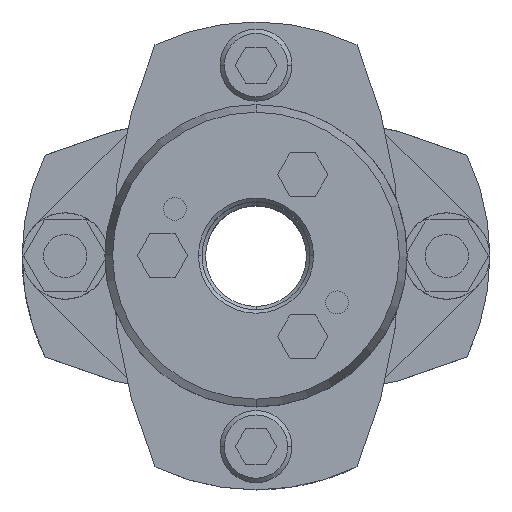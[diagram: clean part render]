
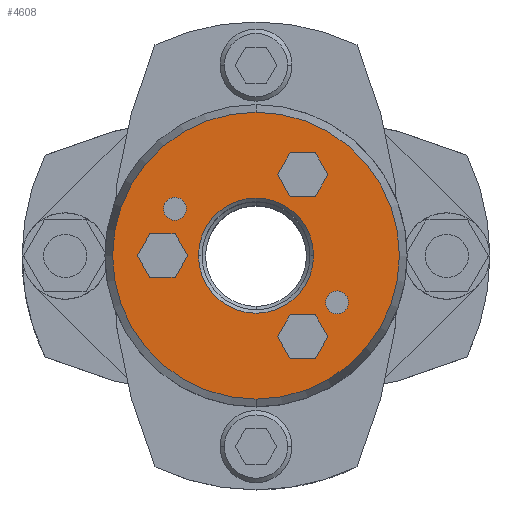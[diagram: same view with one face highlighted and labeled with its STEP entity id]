
A CAD part, top view. The second image highlights one B-rep face of the part: STEP entity #4608.
In plain terms, the highlighted planar face has unit normal (0, 0, 1).
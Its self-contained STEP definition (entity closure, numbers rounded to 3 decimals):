
#1004=CARTESIAN_POINT('',(0.,-19.928,30.75));
#1005=VERTEX_POINT('',#1004);
#1012=CARTESIAN_POINT('',(0.0,19.928,30.75));
#1013=VERTEX_POINT('',#1012);
#1014=CARTESIAN_POINT('',(0.0,0.,30.75));
#1015=DIRECTION('',(0.0,0.0,-1.0));
#1016=DIRECTION('',(0.0,-1.0,0.0));
#1017=AXIS2_PLACEMENT_3D('',#1014,#1015,#1016);
#1018=CIRCLE('',#1017,19.928);
#1019=EDGE_CURVE('',#1005,#1013,#1018,.T.);
#1114=CARTESIAN_POINT('',(-8.,0.,30.75));
#1115=VERTEX_POINT('',#1114);
#1131=CARTESIAN_POINT('',(8.,0.,30.75));
#1132=VERTEX_POINT('',#1131);
#1139=CARTESIAN_POINT('',(0.,0.,30.75));
#1140=DIRECTION('',(0.0,0.0,1.0));
#1141=DIRECTION('',(-1.0,0.0,0.0));
#1142=AXIS2_PLACEMENT_3D('',#1139,#1140,#1141);
#1143=CIRCLE('',#1142,8.0);
#1144=EDGE_CURVE('',#1132,#1115,#1143,.T.);
#1262=CARTESIAN_POINT('',(-12.858,6.5,30.75));
#1263=VERTEX_POINT('',#1262);
#1279=CARTESIAN_POINT('',(-9.658,6.5,30.75));
#1280=VERTEX_POINT('',#1279);
#1287=CARTESIAN_POINT('',(-11.258,6.5,30.75));
#1288=DIRECTION('',(0.0,0.0,-1.0));
#1289=DIRECTION('',(-1.0,0.0,0.0));
#1290=AXIS2_PLACEMENT_3D('',#1287,#1288,#1289);
#1291=CIRCLE('',#1290,1.6);
#1292=EDGE_CURVE('',#1263,#1280,#1291,.T.);
#1304=CARTESIAN_POINT('',(9.658,-6.5,30.75));
#1305=VERTEX_POINT('',#1304);
#1321=CARTESIAN_POINT('',(12.858,-6.5,30.75));
#1322=VERTEX_POINT('',#1321);
#1329=CARTESIAN_POINT('',(11.258,-6.5,30.75));
#1330=DIRECTION('',(0.0,0.0,-1.0));
#1331=DIRECTION('',(-1.0,0.0,0.0));
#1332=AXIS2_PLACEMENT_3D('',#1329,#1330,#1331);
#1333=CIRCLE('',#1332,1.6);
#1334=EDGE_CURVE('',#1305,#1322,#1333,.T.);
#3811=CARTESIAN_POINT('',(11.258,-6.5,30.75));
#3812=DIRECTION('',(0.0,0.0,-1.0));
#3813=DIRECTION('',(-1.0,0.0,0.0));
#3814=AXIS2_PLACEMENT_3D('',#3811,#3812,#3813);
#3815=CIRCLE('',#3814,1.6);
#3816=EDGE_CURVE('',#1322,#1305,#3815,.T.);
#3845=CARTESIAN_POINT('',(-11.258,6.5,30.75));
#3846=DIRECTION('',(0.0,0.0,-1.0));
#3847=DIRECTION('',(-1.0,0.0,0.0));
#3848=AXIS2_PLACEMENT_3D('',#3845,#3846,#3847);
#3849=CIRCLE('',#3848,1.6);
#3850=EDGE_CURVE('',#1280,#1263,#3849,.T.);
#3888=CARTESIAN_POINT('',(3.,-11.258,30.75));
#3889=VERTEX_POINT('',#3888);
#3896=CARTESIAN_POINT('',(4.75,-14.289,30.75));
#3897=VERTEX_POINT('',#3896);
#3898=CARTESIAN_POINT('',(4.75,-14.289,30.75));
#3899=DIRECTION('',(-0.5,0.866,0.0));
#3900=VECTOR('',#3899,3.5);
#3901=LINE('',#3898,#3900);
#3902=EDGE_CURVE('',#3897,#3889,#3901,.T.);
#3926=CARTESIAN_POINT('',(4.75,-8.227,30.75));
#3927=VERTEX_POINT('',#3926);
#3934=CARTESIAN_POINT('',(3.,-11.258,30.75));
#3935=DIRECTION('',(0.5,0.866,0.0));
#3936=VECTOR('',#3935,3.5);
#3937=LINE('',#3934,#3936);
#3938=EDGE_CURVE('',#3889,#3927,#3937,.T.);
#3957=CARTESIAN_POINT('',(8.25,-8.227,30.75));
#3958=VERTEX_POINT('',#3957);
#3965=CARTESIAN_POINT('',(4.75,-8.227,30.75));
#3966=DIRECTION('',(1.0,0.0,0.0));
#3967=VECTOR('',#3966,3.5);
#3968=LINE('',#3965,#3967);
#3969=EDGE_CURVE('',#3927,#3958,#3968,.T.);
#3988=CARTESIAN_POINT('',(10.,-11.258,30.75));
#3989=VERTEX_POINT('',#3988);
#3996=CARTESIAN_POINT('',(8.25,-8.227,30.75));
#3997=DIRECTION('',(0.5,-0.866,0.0));
#3998=VECTOR('',#3997,3.5);
#3999=LINE('',#3996,#3998);
#4000=EDGE_CURVE('',#3958,#3989,#3999,.T.);
#4019=CARTESIAN_POINT('',(8.25,-14.289,30.75));
#4020=VERTEX_POINT('',#4019);
#4027=CARTESIAN_POINT('',(10.,-11.258,30.75));
#4028=DIRECTION('',(-0.5,-0.866,0.0));
#4029=VECTOR('',#4028,3.5);
#4030=LINE('',#4027,#4029);
#4031=EDGE_CURVE('',#3989,#4020,#4030,.T.);
#4049=CARTESIAN_POINT('',(8.25,-14.289,30.75));
#4050=DIRECTION('',(-1.0,0.0,0.0));
#4051=VECTOR('',#4050,3.5);
#4052=LINE('',#4049,#4051);
#4053=EDGE_CURVE('',#4020,#3897,#4052,.T.);
#4088=CARTESIAN_POINT('',(3.,11.258,30.75));
#4089=VERTEX_POINT('',#4088);
#4096=CARTESIAN_POINT('',(4.75,8.227,30.75));
#4097=VERTEX_POINT('',#4096);
#4098=CARTESIAN_POINT('',(4.75,8.227,30.75));
#4099=DIRECTION('',(-0.5,0.866,0.0));
#4100=VECTOR('',#4099,3.5);
#4101=LINE('',#4098,#4100);
#4102=EDGE_CURVE('',#4097,#4089,#4101,.T.);
#4126=CARTESIAN_POINT('',(4.75,14.289,30.75));
#4127=VERTEX_POINT('',#4126);
#4134=CARTESIAN_POINT('',(3.,11.258,30.75));
#4135=DIRECTION('',(0.5,0.866,0.0));
#4136=VECTOR('',#4135,3.5);
#4137=LINE('',#4134,#4136);
#4138=EDGE_CURVE('',#4089,#4127,#4137,.T.);
#4157=CARTESIAN_POINT('',(8.25,14.289,30.75));
#4158=VERTEX_POINT('',#4157);
#4165=CARTESIAN_POINT('',(4.75,14.289,30.75));
#4166=DIRECTION('',(1.0,0.0,0.0));
#4167=VECTOR('',#4166,3.5);
#4168=LINE('',#4165,#4167);
#4169=EDGE_CURVE('',#4127,#4158,#4168,.T.);
#4188=CARTESIAN_POINT('',(10.,11.258,30.75));
#4189=VERTEX_POINT('',#4188);
#4196=CARTESIAN_POINT('',(8.25,14.289,30.75));
#4197=DIRECTION('',(0.5,-0.866,0.0));
#4198=VECTOR('',#4197,3.5);
#4199=LINE('',#4196,#4198);
#4200=EDGE_CURVE('',#4158,#4189,#4199,.T.);
#4219=CARTESIAN_POINT('',(8.25,8.227,30.75));
#4220=VERTEX_POINT('',#4219);
#4227=CARTESIAN_POINT('',(10.,11.258,30.75));
#4228=DIRECTION('',(-0.5,-0.866,0.0));
#4229=VECTOR('',#4228,3.5);
#4230=LINE('',#4227,#4229);
#4231=EDGE_CURVE('',#4189,#4220,#4230,.T.);
#4249=CARTESIAN_POINT('',(8.25,8.227,30.75));
#4250=DIRECTION('',(-1.0,0.0,0.0));
#4251=VECTOR('',#4250,3.5);
#4252=LINE('',#4249,#4251);
#4253=EDGE_CURVE('',#4220,#4097,#4252,.T.);
#4288=CARTESIAN_POINT('',(-16.5,0.,30.75));
#4289=VERTEX_POINT('',#4288);
#4296=CARTESIAN_POINT('',(-14.75,-3.031,30.75));
#4297=VERTEX_POINT('',#4296);
#4298=CARTESIAN_POINT('',(-14.75,-3.031,30.75));
#4299=DIRECTION('',(-0.5,0.866,0.0));
#4300=VECTOR('',#4299,3.5);
#4301=LINE('',#4298,#4300);
#4302=EDGE_CURVE('',#4297,#4289,#4301,.T.);
#4326=CARTESIAN_POINT('',(-14.75,3.031,30.75));
#4327=VERTEX_POINT('',#4326);
#4334=CARTESIAN_POINT('',(-16.5,0.,30.75));
#4335=DIRECTION('',(0.5,0.866,0.0));
#4336=VECTOR('',#4335,3.5);
#4337=LINE('',#4334,#4336);
#4338=EDGE_CURVE('',#4289,#4327,#4337,.T.);
#4357=CARTESIAN_POINT('',(-11.25,3.031,30.75));
#4358=VERTEX_POINT('',#4357);
#4365=CARTESIAN_POINT('',(-14.75,3.031,30.75));
#4366=DIRECTION('',(1.0,0.0,0.0));
#4367=VECTOR('',#4366,3.5);
#4368=LINE('',#4365,#4367);
#4369=EDGE_CURVE('',#4327,#4358,#4368,.T.);
#4388=CARTESIAN_POINT('',(-9.5,0.,30.75));
#4389=VERTEX_POINT('',#4388);
#4396=CARTESIAN_POINT('',(-11.25,3.031,30.75));
#4397=DIRECTION('',(0.5,-0.866,0.0));
#4398=VECTOR('',#4397,3.5);
#4399=LINE('',#4396,#4398);
#4400=EDGE_CURVE('',#4358,#4389,#4399,.T.);
#4419=CARTESIAN_POINT('',(-11.25,-3.031,30.75));
#4420=VERTEX_POINT('',#4419);
#4427=CARTESIAN_POINT('',(-9.5,0.,30.75));
#4428=DIRECTION('',(-0.5,-0.866,0.0));
#4429=VECTOR('',#4428,3.5);
#4430=LINE('',#4427,#4429);
#4431=EDGE_CURVE('',#4389,#4420,#4430,.T.);
#4449=CARTESIAN_POINT('',(-11.25,-3.031,30.75));
#4450=DIRECTION('',(-1.0,0.0,0.0));
#4451=VECTOR('',#4450,3.5);
#4452=LINE('',#4449,#4451);
#4453=EDGE_CURVE('',#4420,#4297,#4452,.T.);
#4545=CARTESIAN_POINT('',(0.,0.,30.75));
#4546=DIRECTION('',(0.0,0.0,1.0));
#4547=DIRECTION('',(-1.0,0.0,0.0));
#4548=AXIS2_PLACEMENT_3D('',#4545,#4546,#4547);
#4549=CIRCLE('',#4548,8.0);
#4550=EDGE_CURVE('',#1115,#1132,#4549,.T.);
#4557=CARTESIAN_POINT('',(0.,-9.964,30.75));
#4558=DIRECTION('',(0.0,0.0,1.0));
#4559=DIRECTION('',(-1.0,0.0,0.0));
#4560=AXIS2_PLACEMENT_3D('',#4557,#4558,#4559);
#4561=PLANE('',#4560);
#4562=ORIENTED_EDGE('',*,*,#1019,.F.);
#4563=CARTESIAN_POINT('',(0.0,0.,30.75));
#4564=DIRECTION('',(0.0,0.0,-1.0));
#4565=DIRECTION('',(0.0,-1.0,0.0));
#4566=AXIS2_PLACEMENT_3D('',#4563,#4564,#4565);
#4567=CIRCLE('',#4566,19.928);
#4568=EDGE_CURVE('',#1013,#1005,#4567,.T.);
#4569=ORIENTED_EDGE('',*,*,#4568,.F.);
#4570=EDGE_LOOP('',(#4562,#4569));
#4571=FACE_OUTER_BOUND('',#4570,.T.);
#4572=ORIENTED_EDGE('',*,*,#1334,.T.);
#4573=ORIENTED_EDGE('',*,*,#3816,.T.);
#4574=EDGE_LOOP('',(#4572,#4573));
#4575=FACE_BOUND('',#4574,.T.);
#4576=ORIENTED_EDGE('',*,*,#1292,.T.);
#4577=ORIENTED_EDGE('',*,*,#3850,.T.);
#4578=EDGE_LOOP('',(#4576,#4577));
#4579=FACE_BOUND('',#4578,.T.);
#4580=ORIENTED_EDGE('',*,*,#3902,.T.);
#4581=ORIENTED_EDGE('',*,*,#3938,.T.);
#4582=ORIENTED_EDGE('',*,*,#3969,.T.);
#4583=ORIENTED_EDGE('',*,*,#4000,.T.);
#4584=ORIENTED_EDGE('',*,*,#4031,.T.);
#4585=ORIENTED_EDGE('',*,*,#4053,.T.);
#4586=EDGE_LOOP('',(#4580,#4581,#4582,#4583,#4584,#4585));
#4587=FACE_BOUND('',#4586,.T.);
#4588=ORIENTED_EDGE('',*,*,#4102,.T.);
#4589=ORIENTED_EDGE('',*,*,#4138,.T.);
#4590=ORIENTED_EDGE('',*,*,#4169,.T.);
#4591=ORIENTED_EDGE('',*,*,#4200,.T.);
#4592=ORIENTED_EDGE('',*,*,#4231,.T.);
#4593=ORIENTED_EDGE('',*,*,#4253,.T.);
#4594=EDGE_LOOP('',(#4588,#4589,#4590,#4591,#4592,#4593));
#4595=FACE_BOUND('',#4594,.T.);
#4596=ORIENTED_EDGE('',*,*,#4302,.T.);
#4597=ORIENTED_EDGE('',*,*,#4338,.T.);
#4598=ORIENTED_EDGE('',*,*,#4369,.T.);
#4599=ORIENTED_EDGE('',*,*,#4400,.T.);
#4600=ORIENTED_EDGE('',*,*,#4431,.T.);
#4601=ORIENTED_EDGE('',*,*,#4453,.T.);
#4602=EDGE_LOOP('',(#4596,#4597,#4598,#4599,#4600,#4601));
#4603=FACE_BOUND('',#4602,.T.);
#4604=ORIENTED_EDGE('',*,*,#1144,.F.);
#4605=ORIENTED_EDGE('',*,*,#4550,.F.);
#4606=EDGE_LOOP('',(#4604,#4605));
#4607=FACE_BOUND('',#4606,.T.);
#4608=ADVANCED_FACE('',(#4571,#4575,#4579,#4587,#4595,#4603,#4607),#4561,.T.);
